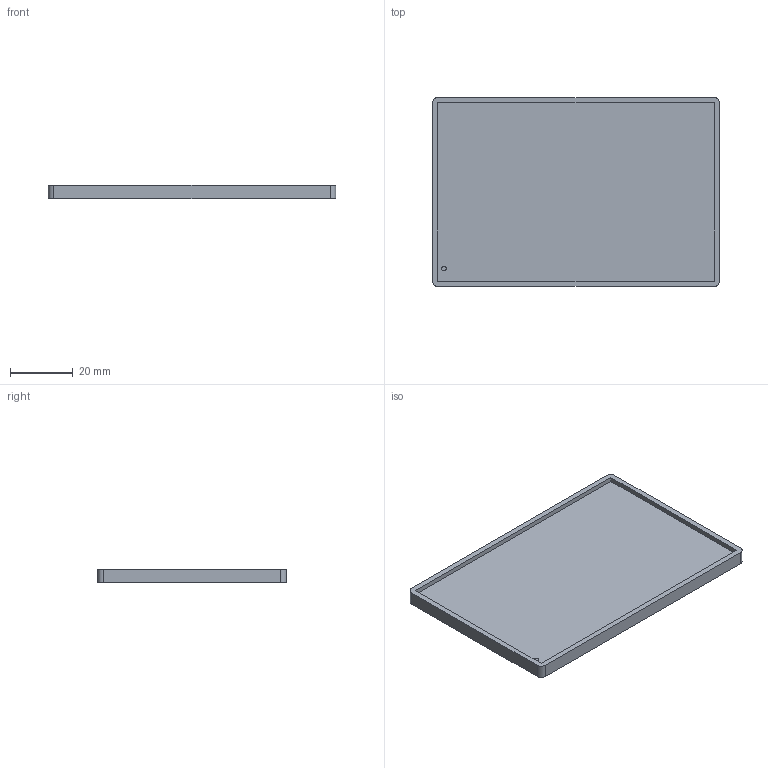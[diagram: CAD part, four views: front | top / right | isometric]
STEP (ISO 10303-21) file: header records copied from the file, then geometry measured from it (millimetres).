
FILE_DESCRIPTION(('Open CASCADE Model'),'2;1');
FILE_NAME('Open CASCADE Shape Model','2026-10-24T14:45:54',('Author'),( 'Open CASCADE'),'Open CASCADE STEP processor 7.7','Open CASCADE 7.7' ,'Unknown');
FILE_SCHEMA(('AUTOMOTIVE_DESIGN { 1 0 10303 214 1 1 1 1 }'));
Length unit declared in the file: millimetre
Products named in the file (1): Open CASCADE STEP translator 7.7 1
Bounding box: 92 x 60.38 x 4.4 mm (x, y, z)
Volume: 14967.3 mm3; surface area: 12982.2 mm2
Topology: 1 solids, 1 shells, 22 faces, 51 edges, 34 vertices
Faces by surface type: plane 17, cylinder 5
Full cylindrical faces by diameter (mm): 1.5 x1
Entity records: 1313 total; most frequent: CARTESIAN_POINT 240, DIRECTION 204, LINE 133, VECTOR 133, ORIENTED_EDGE 102, PCURVE 102, DEFINITIONAL_REPRESENTATION 102, EDGE_CURVE 51
